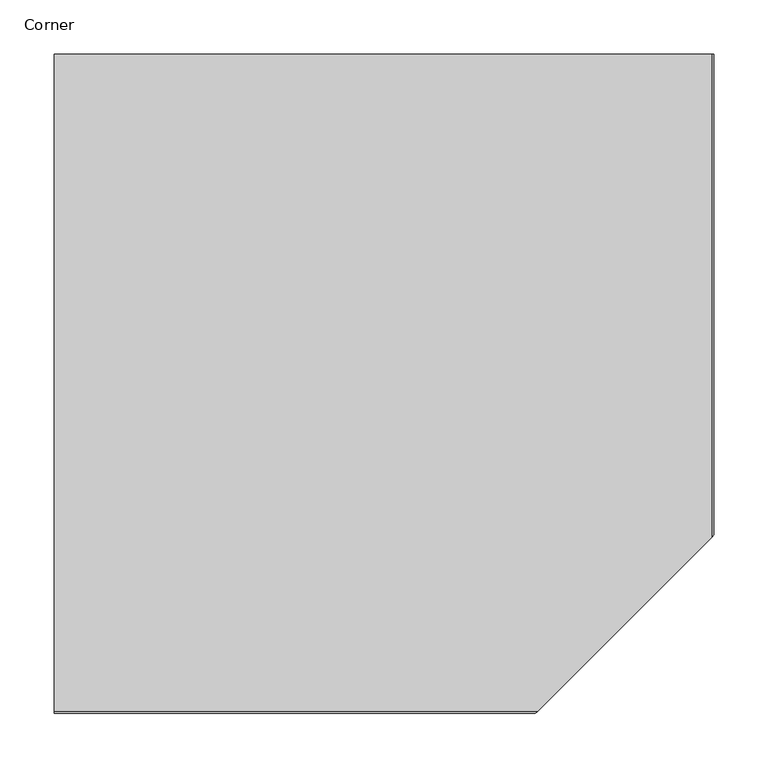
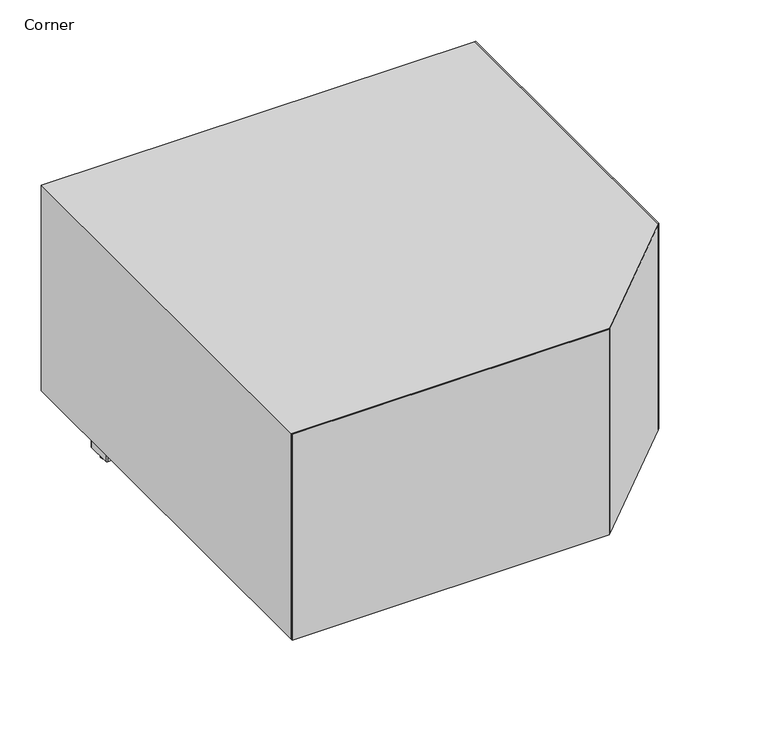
"""IFC4 building model written with IfcOpenShell, lengths in millimetres: furniture geometry, Steelcase Coalesse - Exponents - Seating - Bench Bridge : Corner."""

from ifc_helpers import new_model, si_unit, point, frame, frame_2d, origin, origin_with_axes, place, context, project, spatial, polyline, circle_curve, trimmed, segment, composite_curve, outline, extrude, source, transform, mapped, element, save


def corner_3b95d0c9(model_context):
    return source(origin(), model_context, "Body", "SweptSolid", [
        extrude(outline(composite_curve([segment(trimmed(circle_curve(frame_2d((57.1282316, 552.4220812)), 6.35), [point((50.7782316, 552.4220812))], [point((63.4782316, 552.4220812))], False, "CARTESIAN"), True, "CONTINUOUS"), segment(trimmed(circle_curve(frame_2d((57.1282316, 552.4220812)), 6.35), [point((63.4782316, 552.4220812))], [point((50.7782316, 552.4220812))], False, "CARTESIAN"), True, "CONTINUOUS")], self_intersect=False)), origin_with_axes(), (0.0, 0.0, 1.0), 304.8),
        extrude(outline(composite_curve([segment(trimmed(circle_curve(frame_2d((65.151, 569.976)), 1.524), [point((65.151, 571.5))], [point((66.675, 569.976))], False, "CARTESIAN"), True, "CONTINUOUS"), segment(polyline([(66.675, 569.976), (66.675, 534.924)]), True, "CONTINUOUS"), segment(trimmed(circle_curve(frame_2d((65.151, 534.924)), 1.524), [point((66.675, 534.924))], [point((65.151, 533.4))], False, "CARTESIAN"), True, "CONTINUOUS"), segment(polyline([(65.151, 533.4), (49.261829, 533.4)]), True, "CONTINUOUS"), segment(trimmed(circle_curve(frame_2d((49.261829, 535.036829)), 1.636829), [point((49.261829, 533.4))], [point((47.625, 535.036829))], False, "CARTESIAN"), True, "CONTINUOUS"), segment(polyline([(47.625, 535.036829), (47.625, 569.976)]), True, "CONTINUOUS"), segment(trimmed(circle_curve(frame_2d((49.149, 569.976)), 1.524), [point((47.625, 569.976))], [point((49.149, 571.5))], False, "CARTESIAN"), True, "CONTINUOUS"), segment(polyline([(49.149, 571.5), (65.151, 571.5)]), True, "CONTINUOUS")], self_intersect=False)), frame((0.0, 0.0, 6.3754), z_axis=(0.0, 0.0, 1.0), x_axis=(1.0, 0.0, 0.0)), (0.0, 0.0, 1.0), 73.152),
        extrude(outline(polyline([(107.95, 603.25), (107.95, 501.65), (6.35, 501.65), (6.35, 603.25), (107.95, 603.25)])), frame((0.0, 0.0, 79.5274), z_axis=(0.0, 0.0, 1.0), x_axis=(1.0, 0.0, 0.0)), (0.0, 0.0, 1.0), 3.048),
        extrude(outline(polyline([(608.0125, 163.2585), (608.0125, 609.6), (609.6, 609.6), (609.6, 164.846), (608.0125, 163.2585)])), frame((0.0, 0.0, 82.5754), z_axis=(0.0, 0.0, 1.0), x_axis=(1.0, 0.0, 0.0)), (0.0, 0.0, 1.0), 304.7746),
        extrude(outline(polyline([(446.3415, 1.5875), (444.754, 0.0), (0.0, 0.0), (0.0, 1.5875), (446.3415, 1.5875)])), frame((0.0, 0.0, 82.5754), z_axis=(0.0, 0.0, 1.0), x_axis=(1.0, 0.0, 0.0)), (0.0, 0.0, 1.0), 304.7746),
        extrude(outline(polyline([(608.0125, 609.6), (608.0125, 163.2585), (446.3415, 1.5875), (0.0, 1.5875), (0.0, 609.6), (608.0125, 609.6)])), frame((0.0, 0.0, 82.5754), z_axis=(0.0, 0.0, 1.0), x_axis=(1.0, 0.0, 0.0)), (0.0, 0.0, 1.0), 304.7746),
    ])


if __name__ == "__main__":
    model = new_model("IFC4")
    model_context = context("Model", 3, world=origin())
    ifc_project = project(units=[si_unit("LENGTHUNIT", "METRE", prefix="MILLI")], contexts=[model_context])
    site = spatial("IfcSite", under=ifc_project)
    building = spatial("IfcBuilding", under=site)
    placement = place(None, origin())
    corner_shape = corner_3b95d0c9(model_context)
    element("IfcFurniture", 1, ObjectType="Steelcase Coalesse - Exponents - Seating - Bench Bridge : Corner", at=placement, inside=building, context=model_context, shape_type="MappedRepresentation", body=[
        mapped(corner_shape, transform((0.0, 0.0, 0.0), x_axis=(1.0, 0.0, 0.0), y_axis=(0.0, 1.0, 0.0), z_axis=(0.0, 0.0, 1.0))),
    ])
    save(model, "model.ifc")
